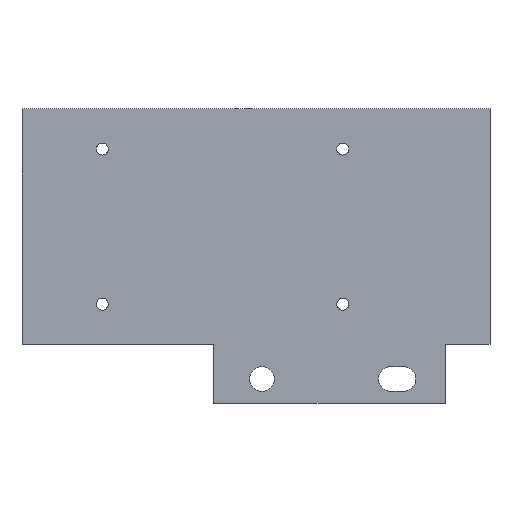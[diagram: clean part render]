
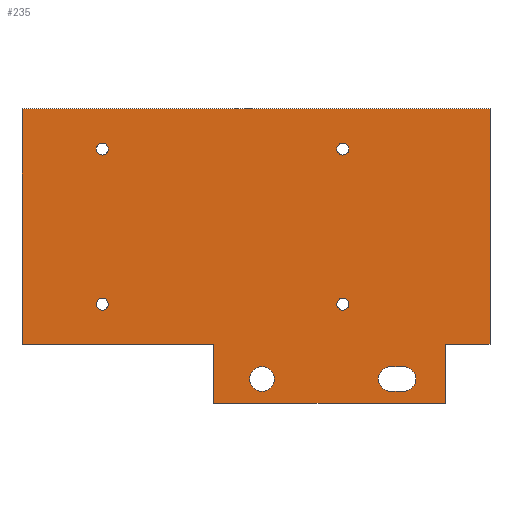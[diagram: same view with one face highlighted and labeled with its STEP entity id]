
A CAD part, top view. The second image highlights one B-rep face of the part: STEP entity #235.
In plain terms, the highlighted planar face has unit normal (0, 0, 1).
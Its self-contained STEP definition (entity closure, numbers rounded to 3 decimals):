
#32 = VERTEX_POINT('',#33);
#33 = CARTESIAN_POINT('',(0.,110.,3.));
#39 = EDGE_CURVE('',#32,#40,#42,.T.);
#40 = VERTEX_POINT('',#41);
#41 = CARTESIAN_POINT('',(0.,22.,3.));
#42 = LINE('',#43,#44);
#43 = CARTESIAN_POINT('',(0.,110.,3.));
#44 = VECTOR('',#45,1.);
#45 = DIRECTION('',(0.,-1.,0.));
#215 = EDGE_CURVE('',#40,#216,#218,.T.);
#216 = VERTEX_POINT('',#217);
#217 = CARTESIAN_POINT('',(71.65,22.,3.));
#218 = LINE('',#219,#220);
#219 = CARTESIAN_POINT('',(0.,22.,3.));
#220 = VECTOR('',#221,1.);
#221 = DIRECTION('',(1.,0.,0.));
#235 = ADVANCED_FACE('',(#236,#286,#297,#308,#319,#330,#341),#377,.T.);
#236 = FACE_BOUND('',#237,.T.);
#237 = EDGE_LOOP('',(#238,#248,#254,#255,#256,#264,#272,#280));
#238 = ORIENTED_EDGE('',*,*,#239,.F.);
#239 = EDGE_CURVE('',#240,#242,#244,.T.);
#240 = VERTEX_POINT('',#241);
#241 = CARTESIAN_POINT('',(175.,110.,3.));
#242 = VERTEX_POINT('',#243);
#243 = CARTESIAN_POINT('',(175.,22.,3.));
#244 = LINE('',#245,#246);
#245 = CARTESIAN_POINT('',(175.,110.,3.));
#246 = VECTOR('',#247,1.);
#247 = DIRECTION('',(0.,-1.,0.));
#248 = ORIENTED_EDGE('',*,*,#249,.F.);
#249 = EDGE_CURVE('',#32,#240,#250,.T.);
#250 = LINE('',#251,#252);
#251 = CARTESIAN_POINT('',(0.,110.,3.));
#252 = VECTOR('',#253,1.);
#253 = DIRECTION('',(1.,0.,0.));
#254 = ORIENTED_EDGE('',*,*,#39,.T.);
#255 = ORIENTED_EDGE('',*,*,#215,.T.);
#256 = ORIENTED_EDGE('',*,*,#257,.T.);
#257 = EDGE_CURVE('',#216,#258,#260,.T.);
#258 = VERTEX_POINT('',#259);
#259 = CARTESIAN_POINT('',(71.65,0.,3.));
#260 = LINE('',#261,#262);
#261 = CARTESIAN_POINT('',(71.65,27.,3.));
#262 = VECTOR('',#263,1.);
#263 = DIRECTION('',(0.,-1.,0.));
#264 = ORIENTED_EDGE('',*,*,#265,.T.);
#265 = EDGE_CURVE('',#258,#266,#268,.T.);
#266 = VERTEX_POINT('',#267);
#267 = CARTESIAN_POINT('',(158.35,0.,3.));
#268 = LINE('',#269,#270);
#269 = CARTESIAN_POINT('',(71.65,0.,3.));
#270 = VECTOR('',#271,1.);
#271 = DIRECTION('',(1.,0.,0.));
#272 = ORIENTED_EDGE('',*,*,#273,.F.);
#273 = EDGE_CURVE('',#274,#266,#276,.T.);
#274 = VERTEX_POINT('',#275);
#275 = CARTESIAN_POINT('',(158.35,22.,3.));
#276 = LINE('',#277,#278);
#277 = CARTESIAN_POINT('',(158.35,27.,3.));
#278 = VECTOR('',#279,1.);
#279 = DIRECTION('',(0.,-1.,0.));
#280 = ORIENTED_EDGE('',*,*,#281,.T.);
#281 = EDGE_CURVE('',#274,#242,#282,.T.);
#282 = LINE('',#283,#284);
#283 = CARTESIAN_POINT('',(0.,22.,3.));
#284 = VECTOR('',#285,1.);
#285 = DIRECTION('',(1.,0.,0.));
#286 = FACE_BOUND('',#287,.T.);
#287 = EDGE_LOOP('',(#288));
#288 = ORIENTED_EDGE('',*,*,#289,.F.);
#289 = EDGE_CURVE('',#290,#290,#292,.T.);
#290 = VERTEX_POINT('',#291);
#291 = CARTESIAN_POINT('',(30.,92.75,3.));
#292 = CIRCLE('',#293,2.25);
#293 = AXIS2_PLACEMENT_3D('',#294,#295,#296);
#294 = CARTESIAN_POINT('',(30.,95.,3.));
#295 = DIRECTION('',(0.,0.,1.));
#296 = DIRECTION('',(0.,-1.,0.));
#297 = FACE_BOUND('',#298,.T.);
#298 = EDGE_LOOP('',(#299));
#299 = ORIENTED_EDGE('',*,*,#300,.F.);
#300 = EDGE_CURVE('',#301,#301,#303,.T.);
#301 = VERTEX_POINT('',#302);
#302 = CARTESIAN_POINT('',(30.,34.75,3.));
#303 = CIRCLE('',#304,2.25);
#304 = AXIS2_PLACEMENT_3D('',#305,#306,#307);
#305 = CARTESIAN_POINT('',(30.,37.,3.));
#306 = DIRECTION('',(0.,0.,1.));
#307 = DIRECTION('',(0.,-1.,0.));
#308 = FACE_BOUND('',#309,.T.);
#309 = EDGE_LOOP('',(#310));
#310 = ORIENTED_EDGE('',*,*,#311,.F.);
#311 = EDGE_CURVE('',#312,#312,#314,.T.);
#312 = VERTEX_POINT('',#313);
#313 = CARTESIAN_POINT('',(120.,92.75,3.));
#314 = CIRCLE('',#315,2.25);
#315 = AXIS2_PLACEMENT_3D('',#316,#317,#318);
#316 = CARTESIAN_POINT('',(120.,95.,3.));
#317 = DIRECTION('',(0.,0.,1.));
#318 = DIRECTION('',(0.,-1.,0.));
#319 = FACE_BOUND('',#320,.T.);
#320 = EDGE_LOOP('',(#321));
#321 = ORIENTED_EDGE('',*,*,#322,.F.);
#322 = EDGE_CURVE('',#323,#323,#325,.T.);
#323 = VERTEX_POINT('',#324);
#324 = CARTESIAN_POINT('',(89.735,4.4,3.));
#325 = CIRCLE('',#326,4.6);
#326 = AXIS2_PLACEMENT_3D('',#327,#328,#329);
#327 = CARTESIAN_POINT('',(89.735,9.,3.));
#328 = DIRECTION('',(0.,0.,1.));
#329 = DIRECTION('',(0.,-1.,0.));
#330 = FACE_BOUND('',#331,.T.);
#331 = EDGE_LOOP('',(#332));
#332 = ORIENTED_EDGE('',*,*,#333,.F.);
#333 = EDGE_CURVE('',#334,#334,#336,.T.);
#334 = VERTEX_POINT('',#335);
#335 = CARTESIAN_POINT('',(120.,34.75,3.));
#336 = CIRCLE('',#337,2.25);
#337 = AXIS2_PLACEMENT_3D('',#338,#339,#340);
#338 = CARTESIAN_POINT('',(120.,37.,3.));
#339 = DIRECTION('',(0.,0.,1.));
#340 = DIRECTION('',(0.,-1.,0.));
#341 = FACE_BOUND('',#342,.T.);
#342 = EDGE_LOOP('',(#343,#354,#362,#371));
#343 = ORIENTED_EDGE('',*,*,#344,.F.);
#344 = EDGE_CURVE('',#345,#347,#349,.T.);
#345 = VERTEX_POINT('',#346);
#346 = CARTESIAN_POINT('',(137.865,13.6,3.));
#347 = VERTEX_POINT('',#348);
#348 = CARTESIAN_POINT('',(137.865,4.4,3.));
#349 = CIRCLE('',#350,4.6);
#350 = AXIS2_PLACEMENT_3D('',#351,#352,#353);
#351 = CARTESIAN_POINT('',(137.865,9.,3.));
#352 = DIRECTION('',(0.,0.,1.));
#353 = DIRECTION('',(0.,-1.,0.));
#354 = ORIENTED_EDGE('',*,*,#355,.T.);
#355 = EDGE_CURVE('',#345,#356,#358,.T.);
#356 = VERTEX_POINT('',#357);
#357 = CARTESIAN_POINT('',(142.665,13.6,3.));
#358 = LINE('',#359,#360);
#359 = CARTESIAN_POINT('',(113.744,13.6,3.));
#360 = VECTOR('',#361,1.);
#361 = DIRECTION('',(1.,0.,0.));
#362 = ORIENTED_EDGE('',*,*,#363,.F.);
#363 = EDGE_CURVE('',#364,#356,#366,.T.);
#364 = VERTEX_POINT('',#365);
#365 = CARTESIAN_POINT('',(142.665,4.4,3.));
#366 = CIRCLE('',#367,4.6);
#367 = AXIS2_PLACEMENT_3D('',#368,#369,#370);
#368 = CARTESIAN_POINT('',(142.665,9.,3.));
#369 = DIRECTION('',(0.,0.,1.));
#370 = DIRECTION('',(0.,-1.,0.));
#371 = ORIENTED_EDGE('',*,*,#372,.F.);
#372 = EDGE_CURVE('',#347,#364,#373,.T.);
#373 = LINE('',#374,#375);
#374 = CARTESIAN_POINT('',(113.744,4.4,3.));
#375 = VECTOR('',#376,1.);
#376 = DIRECTION('',(1.,0.,0.));
#377 = PLANE('',#378);
#378 = AXIS2_PLACEMENT_3D('',#379,#380,#381);
#379 = CARTESIAN_POINT('',(89.623,58.408,3.));
#380 = DIRECTION('',(0.,0.,1.));
#381 = DIRECTION('',(0.,-1.,0.));
